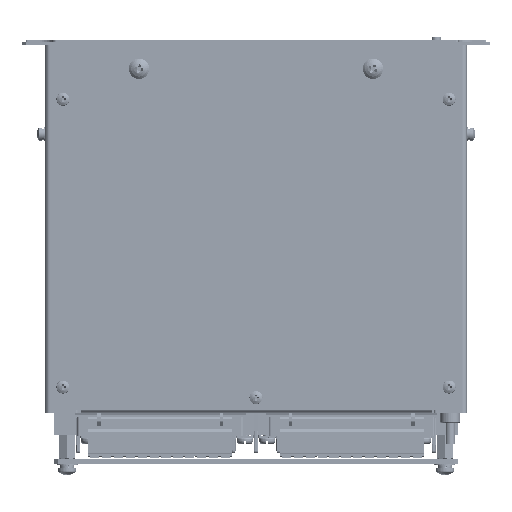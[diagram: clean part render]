
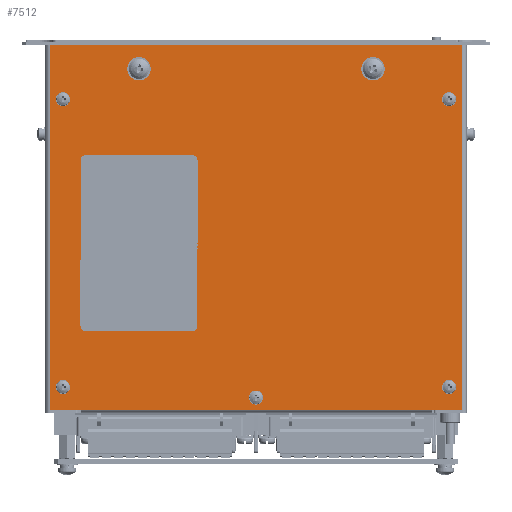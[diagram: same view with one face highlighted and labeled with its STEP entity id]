
A CAD part, left-side view. The second image highlights one B-rep face of the part: STEP entity #7512.
In plain terms, the highlighted planar face has unit normal (-1, 0, 0) as drawn and (0, 0, 1) by its records, which use the part's own axes.
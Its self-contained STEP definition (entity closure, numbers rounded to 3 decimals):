
#7512=ADVANCED_FACE('',(#257551,#257553,#257555,#257557,#257559,#257561,#257563,
#257565),#257567,.T.);
#257551=FACE_BOUND('',#257552,.T.);
#257552=EDGE_LOOP('',(#467051,#467052,#467053,#467054));
#257553=FACE_BOUND('',#257554,.T.);
#257554=EDGE_LOOP('',(#467055));
#257555=FACE_BOUND('',#257556,.T.);
#257556=EDGE_LOOP('',(#467056));
#257557=FACE_BOUND('',#257558,.T.);
#257558=EDGE_LOOP('',(#467057));
#257559=FACE_BOUND('',#257560,.T.);
#257560=EDGE_LOOP('',(#467058));
#257561=FACE_BOUND('',#257562,.T.);
#257562=EDGE_LOOP('',(#467059));
#257563=FACE_BOUND('',#257564,.T.);
#257564=EDGE_LOOP('',(#467060));
#257565=FACE_BOUND('',#257566,.T.);
#257566=EDGE_LOOP('',(#467061));
#257567=PLANE('',#257568);
#257568=AXIS2_PLACEMENT_3D('',#257569,#257570,#257571);
#257569=CARTESIAN_POINT('',(0.,0.,1.));
#257570=DIRECTION('',(0.,0.,1.));
#257571=DIRECTION('',(1.,0.,0.));
#467051=ORIENTED_EDGE('',*,*,#639828,.T.);
#467052=ORIENTED_EDGE('',*,*,#639829,.T.);
#467053=ORIENTED_EDGE('',*,*,#639830,.T.);
#467054=ORIENTED_EDGE('',*,*,#639831,.T.);
#467055=ORIENTED_EDGE('',*,*,#639832,.T.);
#467056=ORIENTED_EDGE('',*,*,#639833,.T.);
#467057=ORIENTED_EDGE('',*,*,#639834,.T.);
#467058=ORIENTED_EDGE('',*,*,#639835,.T.);
#467059=ORIENTED_EDGE('',*,*,#639836,.T.);
#467060=ORIENTED_EDGE('',*,*,#639837,.T.);
#467061=ORIENTED_EDGE('',*,*,#639838,.T.);
#639828=EDGE_CURVE('',#722586,#722587,#722588,.T.);
#639829=EDGE_CURVE('',#722587,#722589,#722590,.T.);
#639830=EDGE_CURVE('',#722589,#722591,#722592,.T.);
#639831=EDGE_CURVE('',#722591,#722586,#722593,.T.);
#639832=EDGE_CURVE('',#722594,#722594,#722595,.F.);
#639833=EDGE_CURVE('',#722596,#722596,#722597,.F.);
#639834=EDGE_CURVE('',#722598,#722598,#722599,.F.);
#639835=EDGE_CURVE('',#722600,#722600,#722601,.F.);
#639836=EDGE_CURVE('',#722602,#722602,#722603,.F.);
#639837=EDGE_CURVE('',#722604,#722604,#722605,.F.);
#639838=EDGE_CURVE('',#722606,#722606,#722607,.F.);
#722586=VERTEX_POINT('',#859523);
#722587=VERTEX_POINT('',#859524);
#722588=LINE('',#859525,#859526);
#722589=VERTEX_POINT('',#859528);
#722590=LINE('',#859529,#859530);
#722591=VERTEX_POINT('',#859532);
#722592=LINE('',#859533,#859534);
#722593=LINE('',#859536,#859537);
#722594=VERTEX_POINT('',#859539);
#722595=CIRCLE('',#859540,1.75);
#722596=VERTEX_POINT('',#859544);
#722597=CIRCLE('',#859545,2.25);
#722598=VERTEX_POINT('',#859549);
#722599=CIRCLE('',#859550,2.25);
#722600=VERTEX_POINT('',#859554);
#722601=CIRCLE('',#859555,1.75);
#722602=VERTEX_POINT('',#859559);
#722603=CIRCLE('',#859560,1.75);
#722604=VERTEX_POINT('',#859564);
#722605=CIRCLE('',#859565,1.75);
#722606=VERTEX_POINT('',#859569);
#722607=CIRCLE('',#859570,1.75);
#859523=CARTESIAN_POINT('',(78.,88.,1.));
#859524=CARTESIAN_POINT('',(-78.,88.,1.));
#859525=CARTESIAN_POINT('',(78.,88.,1.));
#859526=VECTOR('',#859527,1.);
#859527=DIRECTION('',(-1.,0.,0.));
#859528=CARTESIAN_POINT('',(-78.,-88.,1.));
#859529=CARTESIAN_POINT('',(-78.,88.,1.));
#859530=VECTOR('',#859531,1.);
#859531=DIRECTION('',(0.,-1.,0.));
#859532=CARTESIAN_POINT('',(78.,-88.,1.));
#859533=CARTESIAN_POINT('',(-78.,-88.,1.));
#859534=VECTOR('',#859535,1.);
#859535=DIRECTION('',(1.,0.,0.));
#859536=CARTESIAN_POINT('',(78.,-88.,1.));
#859537=VECTOR('',#859538,1.);
#859538=DIRECTION('',(0.,1.,0.));
#859539=CARTESIAN_POINT('',(74.25,0.,1.));
#859540=AXIS2_PLACEMENT_3D('',#859541,#859542,#859543);
#859541=CARTESIAN_POINT('',(72.5,0.,1.));
#859542=DIRECTION('',(0.,0.,1.));
#859543=DIRECTION('',(1.,0.,0.));
#859544=CARTESIAN_POINT('',(-65.75,50.,1.));
#859545=AXIS2_PLACEMENT_3D('',#859546,#859547,#859548);
#859546=CARTESIAN_POINT('',(-68.,50.,1.));
#859547=DIRECTION('',(0.,0.,1.));
#859548=DIRECTION('',(1.,0.,0.));
#859549=CARTESIAN_POINT('',(-65.75,-50.,1.));
#859550=AXIS2_PLACEMENT_3D('',#859551,#859552,#859553);
#859551=CARTESIAN_POINT('',(-68.,-50.,1.));
#859552=DIRECTION('',(0.,0.,1.));
#859553=DIRECTION('',(1.,0.,0.));
#859554=CARTESIAN_POINT('',(-53.25,82.5,1.));
#859555=AXIS2_PLACEMENT_3D('',#859556,#859557,#859558);
#859556=CARTESIAN_POINT('',(-55.,82.5,1.));
#859557=DIRECTION('',(0.,0.,1.));
#859558=DIRECTION('',(1.,0.,0.));
#859559=CARTESIAN_POINT('',(69.75,82.5,1.));
#859560=AXIS2_PLACEMENT_3D('',#859561,#859562,#859563);
#859561=CARTESIAN_POINT('',(68.,82.5,1.));
#859562=DIRECTION('',(0.,0.,1.));
#859563=DIRECTION('',(1.,0.,0.));
#859564=CARTESIAN_POINT('',(-53.25,-82.5,1.));
#859565=AXIS2_PLACEMENT_3D('',#859566,#859567,#859568);
#859566=CARTESIAN_POINT('',(-55.,-82.5,1.));
#859567=DIRECTION('',(0.,0.,1.));
#859568=DIRECTION('',(1.,0.,0.));
#859569=CARTESIAN_POINT('',(69.75,-82.5,1.));
#859570=AXIS2_PLACEMENT_3D('',#859571,#859572,#859573);
#859571=CARTESIAN_POINT('',(68.,-82.5,1.));
#859572=DIRECTION('',(0.,0.,1.));
#859573=DIRECTION('',(1.,0.,0.));
